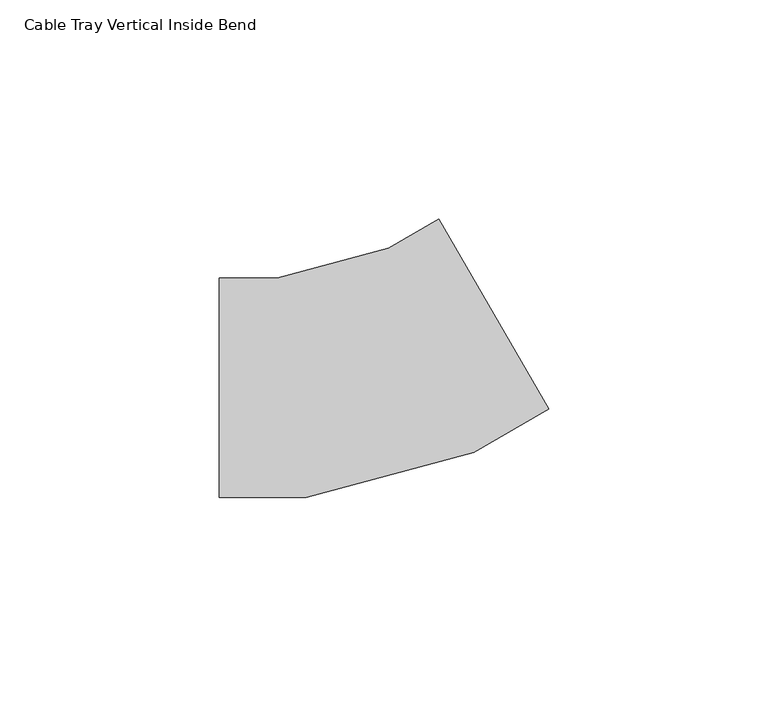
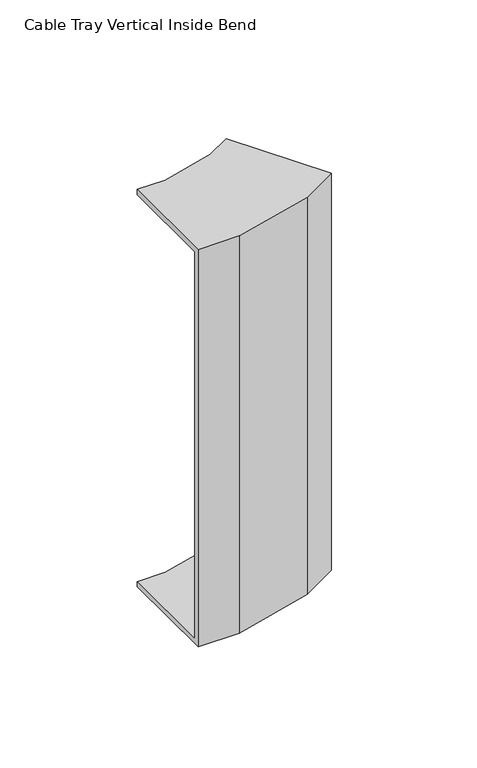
"""IFC4 building model written with IfcOpenShell, lengths in millimetres: cable carrier fitting geometry, Cable Tray Vertical Inside Bend : ELEC_MAIN_CT_N2402."""

from ifc_helpers import new_model, si_unit, origin, place, context, project, spatial, faceted_brep, source, transform, mapped, element, save


def cable_tray_vertical_inside_bend_de01723b(model_context):
    return source(origin(), model_context, "Body", "Brep", [
        faceted_brep([(-33.4936491, 25.0, 100.0), (-33.4936491, 25.0, 97.46), (-33.4936491, -22.46, 97.46), (-33.4936491, -22.46, -97.46), (-33.4936491, 25.0, -97.46), (-33.4936491, 25.0, -100.0), (-33.4936491, -25.0, -100.0), (-33.4936491, -25.0, 100.0), (16.5063509, 38.3974596, 100.0), (41.5063509, -4.9038106, 100.0), (41.5063509, -4.9038106, -100.0), (16.5063509, 38.3974596, -100.0), (16.5063509, 38.3974596, -97.46), (40.236351, -2.7041061, -97.46), (40.236351, -2.7041061, 97.46), (16.5063509, 38.3974596, 97.46), (-20.3283993, 25.0, 100.0), (-20.3283993, 25.0, 97.46), (5.1049102, 31.8148347, 97.46), (23.4237864, -12.4108447, 97.46), (-14.0801718, -22.46, 97.46), (-14.0801718, -22.46, -97.46), (23.4237864, -12.4108447, -97.46), (5.1049102, 31.8148347, -97.46), (-20.3283993, 25.0, -97.46), (-20.3283993, 25.0, -100.0), (5.1049102, 31.8148347, -100.0), (24.4041898, -14.7777479, -100.0), (-13.7457744, -25.0, -100.0), (-13.7457744, -25.0, 100.0), (24.4041898, -14.7777479, 100.0), (5.1049102, 31.8148347, 100.0)], [[[0, 1, 2, 3, 4, 5, 6, 7]], [[8, 9, 10, 11, 12, 13, 14, 15]], [[1, 0, 16, 17]], [[2, 1, 17, 18, 15, 14, 19, 20]], [[3, 2, 20, 21]], [[4, 3, 21, 22, 13, 12, 23, 24]], [[5, 4, 24, 25]], [[6, 5, 25, 26, 11, 10, 27, 28]], [[7, 6, 28, 29]], [[0, 7, 29, 30, 9, 8, 31, 16]], [[17, 16, 31, 18]], [[21, 20, 19, 22]], [[25, 24, 23, 26]], [[29, 28, 27, 30]], [[18, 31, 8, 15]], [[22, 19, 14, 13]], [[26, 23, 12, 11]], [[30, 27, 10, 9]]]),
    ])


if __name__ == "__main__":
    model = new_model("IFC4")
    model_context = context("Model", 3, world=origin())
    ifc_project = project(units=[si_unit("LENGTHUNIT", "METRE", prefix="MILLI")], contexts=[model_context])
    site = spatial("IfcSite", under=ifc_project)
    building = spatial("IfcBuilding", under=site)
    placement = place(None, origin())
    cable_tray_vertical_inside_bend_shape = cable_tray_vertical_inside_bend_de01723b(model_context)
    element("IfcCableCarrierFitting", 1, ObjectType="Cable Tray Vertical Inside Bend : ELEC_MAIN_CT_N2402", at=placement, inside=building, context=model_context, shape_type="MappedRepresentation", body=[
        mapped(cable_tray_vertical_inside_bend_shape, transform((0.0, 0.0, 0.0), x_axis=(1.0, 0.0, 0.0), y_axis=(0.0, 1.0, 0.0), z_axis=(0.0, 0.0, 1.0))),
    ])
    save(model, "model.ifc")
